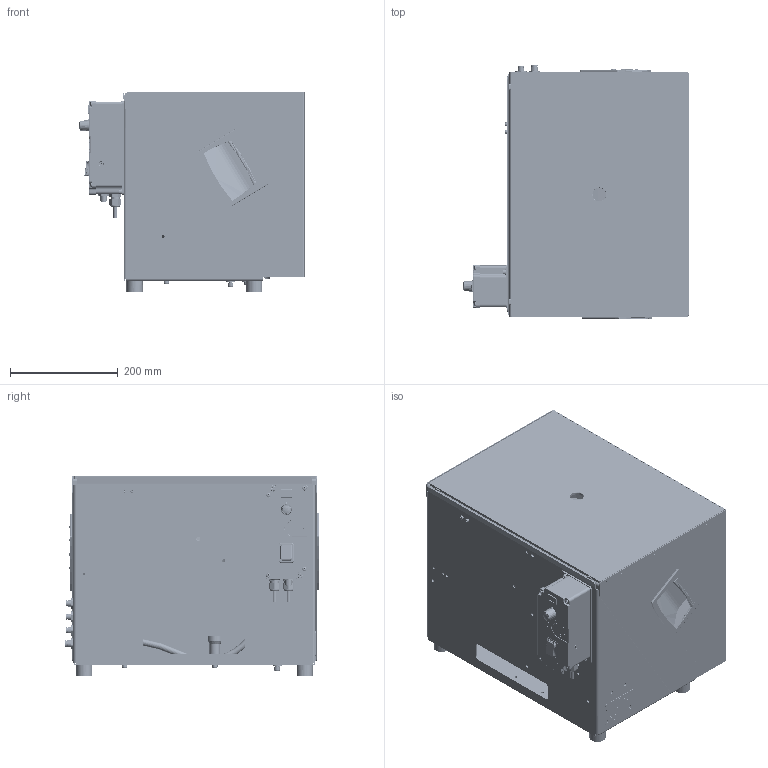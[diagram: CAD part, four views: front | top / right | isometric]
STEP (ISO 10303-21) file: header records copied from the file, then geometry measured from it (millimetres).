
FILE_DESCRIPTION(/* description */ (''),/* implementation_level */ '2;1');
FILE_NAME(/* name */ 'G:\Modelle für Marketing\3Ds Parasolid\Teil 2\3D_Parasolid_automatic_feed_unit_bowl_feeder_ZSE2600_series.x_b.ipt.stp',/* time_stamp */ '2016-07-28T11:56:15+02:00',/* author */ ('Wolf'),/* organization */ (''),/* preprocessor_version */ 'ST-DEVELOPER v15.2',/* originating_system */ 'Autodesk Inventor 2014',/* authorisation */ '');
FILE_SCHEMA (('AUTOMOTIVE_DESIGN { 1 0 10303 214 3 1 1 }'));
Products named in the file (1): 3D_Parasolid_automatic_feed_unit_bowl_feeder_ZSE2600_series.x_b
Bounding box: 420.18 x 473.99 x 372 mm (x, y, z)
Volume: 10450630.2 mm3; surface area: 2865061.7 mm2
Topology: 9 solids, 152 shells, 13870 faces, 37459 edges, 24553 vertices
Faces by surface type: plane 9733, cylinder 1768, bspline 1491, cone 631, torus 216, sphere 31
Full cylindrical faces by diameter (mm): 0.5 x1, 1 x4, 1.2 x8, 1.5 x4, 1.6 x2, 1.9 x4, 2 x1, 2.2 x4, 2.4 x2, 2.459 x2, 2.5 x2, 2.65 x2, 3 x8, 3.03 x2, 3.242 x20, 3.5 x3, 3.8 x4, 3.99 x2, 4 x48, 4.019 x6, 4.134 x12, 4.2 x3, 4.3 x2, 4.4 x3, 4.45 x1, 4.5 x16, 4.773 x1, 4.917 x32, 5 x32, 5.3 x8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
Entity records: 498368 total; most frequent: CARTESIAN_POINT 152703, ORIENTED_EDGE 71294, DIRECTION 61087, EDGE_CURVE 35647, LINE 26621, VECTOR 26621, VERTEX_POINT 23977, AXIS2_PLACEMENT_3D 17233
